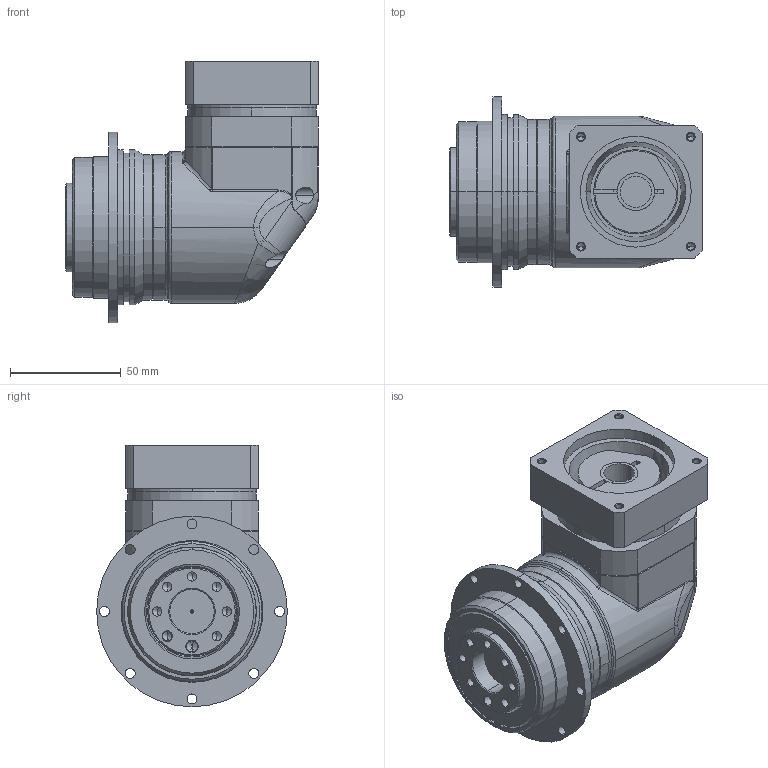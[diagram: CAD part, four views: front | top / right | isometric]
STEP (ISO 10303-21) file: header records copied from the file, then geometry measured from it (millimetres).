
FILE_DESCRIPTION (( 'STEP AP203' ), '1' );
FILE_NAME ('ADR064-L1-14-50-70-M4.STEP', '2024-05-04T08:14:30', ( '' ), ( '' ), 'SwSTEP 2.0', 'SolidWorks 2015', '' );
FILE_SCHEMA (( 'CONFIG_CONTROL_DESIGN' ));
Length unit declared in the file: millimetre
Products named in the file (1): ADR064-L1-14-50-70-M4
Bounding box: 114 x 86 x 118 mm (x, y, z)
Volume: 391569.7 mm3; surface area: 98773.4 mm2
Topology: 8 solids, 8 shells, 461 faces, 1095 edges, 649 vertices
Faces by surface type: cylinder 176, cone 111, bspline 89, plane 77, torus 8
Entity records: 17551 total; most frequent: CARTESIAN_POINT 7476, ORIENTED_EDGE 2102, DIRECTION 2036, EDGE_CURVE 1051, AXIS2_PLACEMENT_3D 847, VERTEX_POINT 649, EDGE_LOOP 540, CIRCLE 474
